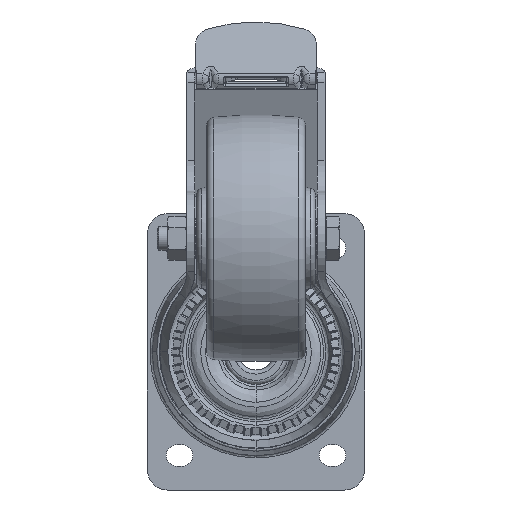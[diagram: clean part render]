
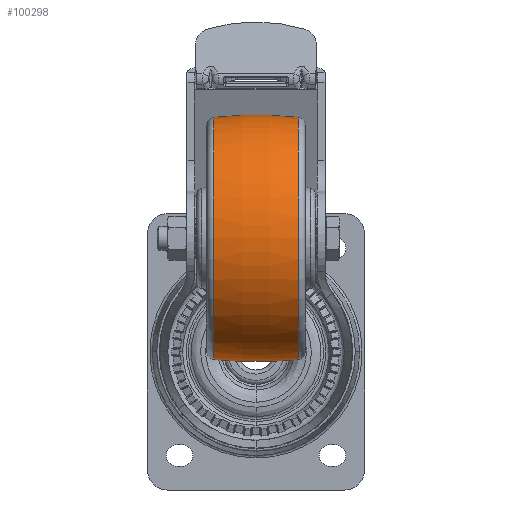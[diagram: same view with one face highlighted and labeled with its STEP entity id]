
A CAD part, front view. The second image highlights one B-rep face of the part: STEP entity #100298.
In plain terms, the highlighted toroidal (fillet/blend) face has major radius 137.5 mm and minor radius 200 mm.
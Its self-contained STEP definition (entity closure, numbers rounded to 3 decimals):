
#2 = DIRECTION ( 'NONE',  ( -1., 0., 0. ) ) ;
#3 = DIRECTION ( 'NONE',  ( 0., 0., 1. ) ) ;
#2070 = FACE_OUTER_BOUND ( 'NONE', #80207, .T. ) ;
#2071 = TOROIDAL_SURFACE ( 'NONE', #91469, -137.5, 200. ) ;
#8403 = CARTESIAN_POINT ( 'NONE',  ( -21.429, 0., 61.349 ) ) ;
#8405 = CARTESIAN_POINT ( 'NONE',  ( -21.429, 0., -61.349 ) ) ;
#8407 = CARTESIAN_POINT ( 'NONE',  ( 21.429, 0., -61.349 ) ) ;
#8409 = CARTESIAN_POINT ( 'NONE',  ( 21.429, 0., 61.349 ) ) ;
#22908 = CARTESIAN_POINT ( 'NONE',  ( 0., 0., 137.5 ) ) ;
#22910 = DIRECTION ( 'NONE',  ( 0., 1., 0. ) ) ;
#22912 = DIRECTION ( 'NONE',  ( 0., 0., 1. ) ) ;
#22924 = CARTESIAN_POINT ( 'NONE',  ( 0., 0., -137.5 ) ) ;
#22926 = DIRECTION ( 'NONE',  ( 0., -1., 0. ) ) ;
#22928 = DIRECTION ( 'NONE',  ( 0., 0., -1. ) ) ;
#24445 = CIRCLE ( 'NONE', #88621, 200. ) ;
#24446 = CIRCLE ( 'NONE', #88617, 200. ) ;
#34843 = CIRCLE ( 'NONE', #81306, 61.349 ) ;
#34844 = CIRCLE ( 'NONE', #81307, 61.349 ) ;
#39792 = CARTESIAN_POINT ( 'NONE',  ( -21.429, 0., 0. ) ) ;
#39794 = DIRECTION ( 'NONE',  ( -1., 0., 0. ) ) ;
#39796 = DIRECTION ( 'NONE',  ( 0., 0., 1. ) ) ;
#39799 = CARTESIAN_POINT ( 'NONE',  ( 21.429, 0., 0. ) ) ;
#39801 = DIRECTION ( 'NONE',  ( -1., 0., 0. ) ) ;
#39803 = DIRECTION ( 'NONE',  ( 0., 0., 1. ) ) ;
#45497 = EDGE_CURVE ( 'NONE', #87574, #87571, #34843, .T. ) ;
#45498 = EDGE_CURVE ( 'NONE', #87577, #87578, #34844, .T. ) ;
#57569 = ORIENTED_EDGE ( 'NONE', *, *, #80803, .F. ) ;
#57570 = ORIENTED_EDGE ( 'NONE', *, *, #45498, .T. ) ;
#57571 = ORIENTED_EDGE ( 'NONE', *, *, #80805, .T. ) ;
#57572 = ORIENTED_EDGE ( 'NONE', *, *, #45497, .F. ) ;
#80207 = EDGE_LOOP ( 'NONE', ( #57569, #57570, #57571, #57572 ) ) ;
#80803 = EDGE_CURVE ( 'NONE', #87577, #87574, #24446, .T. ) ;
#80805 = EDGE_CURVE ( 'NONE', #87578, #87571, #24445, .T. ) ;
#81306 = AXIS2_PLACEMENT_3D ( 'NONE', #39792, #39794, #39796 ) ;
#81307 = AXIS2_PLACEMENT_3D ( 'NONE', #39799, #39801, #39803 ) ;
#87571 = VERTEX_POINT ( 'NONE', #8403 ) ;
#87574 = VERTEX_POINT ( 'NONE', #8405 ) ;
#87577 = VERTEX_POINT ( 'NONE', #8407 ) ;
#87578 = VERTEX_POINT ( 'NONE', #8409 ) ;
#88617 = AXIS2_PLACEMENT_3D ( 'NONE', #22908, #22910, #22912 ) ;
#88621 = AXIS2_PLACEMENT_3D ( 'NONE', #22924, #22926, #22928 ) ;
#91469 = AXIS2_PLACEMENT_3D ( 'NONE', #101638, #2, #3 ) ;
#100298 = ADVANCED_FACE ( 'NONE', ( #2070 ), #2071, .T. ) ;
#101638 = CARTESIAN_POINT ( 'NONE',  ( 0., 0., 0. ) ) ;
